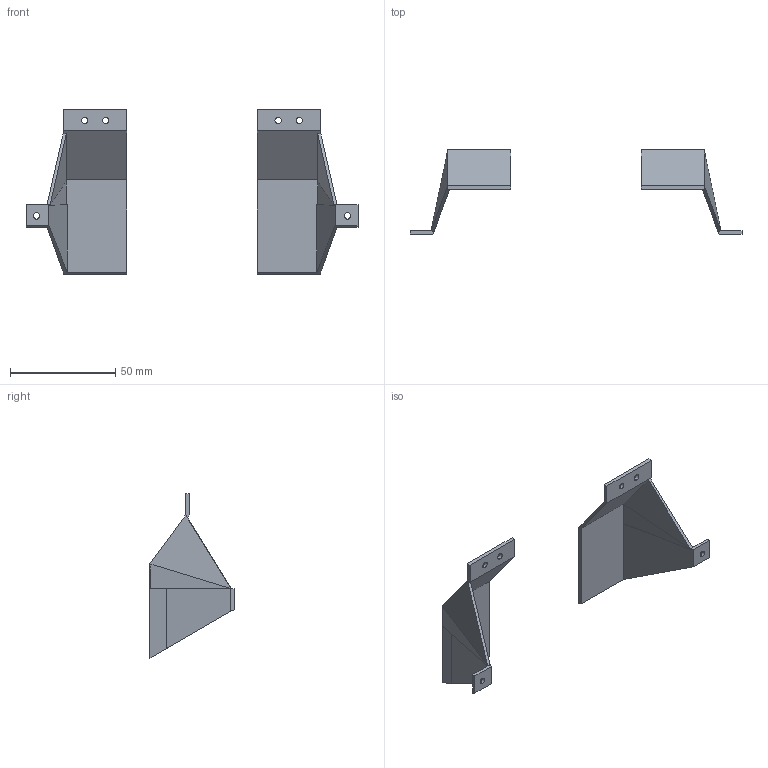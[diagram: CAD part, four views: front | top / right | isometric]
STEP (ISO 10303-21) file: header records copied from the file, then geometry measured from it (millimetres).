
FILE_DESCRIPTION (( 'STEP AP214' ), '1' );
FILE_NAME ('俋褲ヶ.STEP', '2023-02-09T03:34:36', ( '' ), ( '' ), 'SwSTEP 2.0', 'SolidWorks 2022', '' );
FILE_SCHEMA (( 'AUTOMOTIVE_DESIGN' ));
Length unit declared in the file: millimetre
Products named in the file (1): 外壳前
Bounding box: 158 x 40 x 78.09 mm (x, y, z)
Volume: 12564.8 mm3; surface area: 17562.2 mm2
Topology: 2 solids, 2 shells, 70 faces, 176 edges, 110 vertices
Faces by surface type: plane 58, cylinder 12
Entity records: 2115 total; most frequent: CARTESIAN_POINT 357, ORIENTED_EDGE 352, DIRECTION 342, EDGE_CURVE 176, LINE 152, VECTOR 152, VERTEX_POINT 110, AXIS2_PLACEMENT_3D 95
